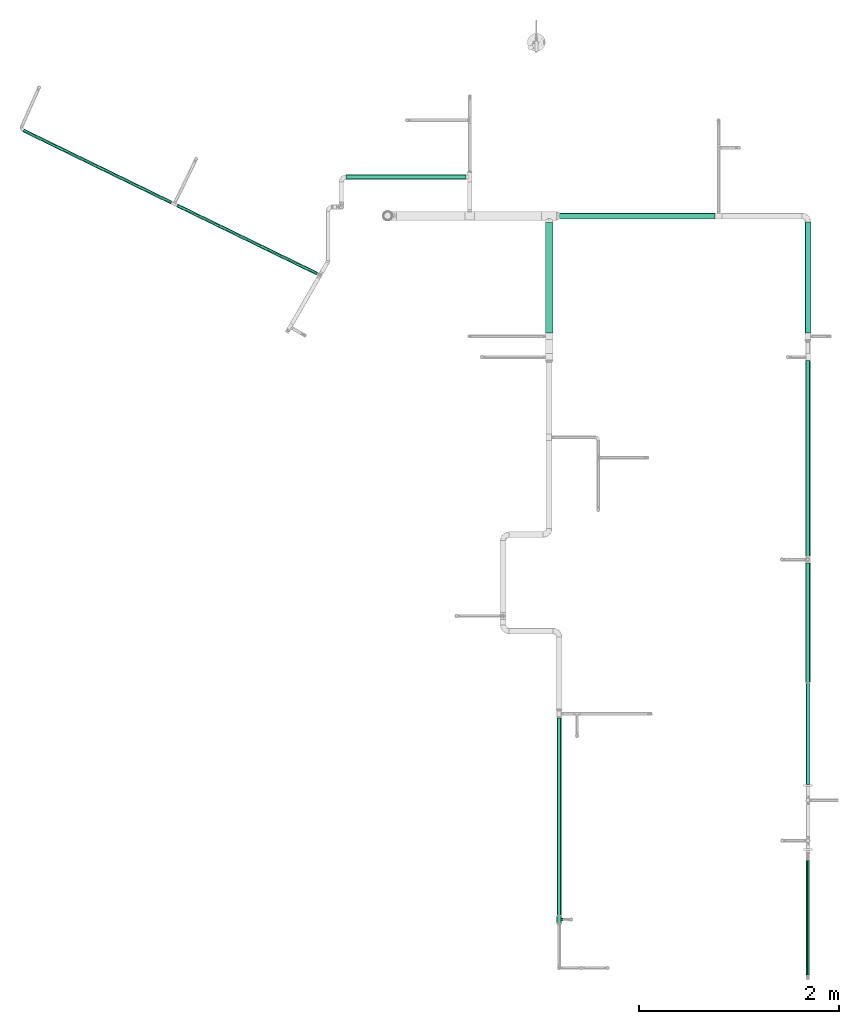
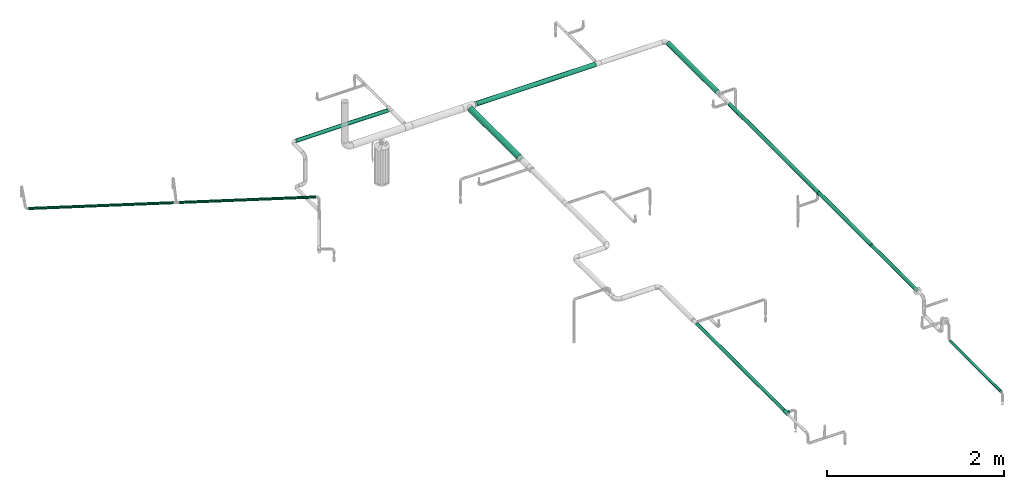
# One storey, part 1 of 43: 11 flow segments, 1 flow fitting.
"""IFC2X3 building model written with IfcOpenShell, lengths in millimetres."""

from ifc_helpers import new_model, entity, si_unit, converted_unit, derived_unit, direction, frame, origin_with_axes, origin_2d_with_axis, place, context, subcontext, project, spatial, hollow_circle, extrude, open_shell, surface_model, source, transform, mapped, type_object, element, save


model = new_model("IFC2X3")

# Units and contexts
model_context = context("Model", 3, precision=0.01, world=frame((0.0, 4.29681676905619e-09, 0.0)), true_north=direction((4.01073788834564e-13, 1.0)))
plan_context = context("Plan", 3, precision=0.01, world=frame((0.0, 4.29681676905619e-09, 0.0)), true_north=direction((4.01073788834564e-13, 1.0)))
body_context = subcontext(model_context, "Body", "Model", "MODEL_VIEW")
ifc_project = project(units=[converted_unit("PLANEANGLEUNIT", "DEGREE", entity("IfcPositiveLengthMeasure", 0.0174532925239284), si_unit("PLANEANGLEUNIT", "RADIAN"), dimensions=[0, 0, 0, 0, 0, 0, 0]), si_unit("AREAUNIT", "SQUARE_METRE"), si_unit("LENGTHUNIT", "METRE", prefix="MILLI"), si_unit("MASSUNIT", "GRAM", prefix="KILO"), si_unit("POWERUNIT", "WATT"), si_unit("PRESSUREUNIT", "PASCAL"), si_unit("FORCEUNIT", "NEWTON", prefix="KILO"), si_unit("ELECTRICVOLTAGEUNIT", "VOLT"), si_unit("ELECTRICCURRENTUNIT", "AMPERE"), si_unit("THERMODYNAMICTEMPERATUREUNIT", "DEGREE_CELSIUS"), si_unit("TIMEUNIT", "SECOND"), si_unit("VOLUMEUNIT", "CUBIC_METRE"), derived_unit("LINEARVELOCITYUNIT", [(si_unit("LENGTHUNIT", "METRE"), 1), (si_unit("TIMEUNIT", "SECOND"), -1)]), derived_unit("VOLUMETRICFLOWRATEUNIT", [(si_unit("VOLUMEUNIT", "CUBIC_METRE"), 1), (si_unit("TIMEUNIT", "SECOND"), -1)]), derived_unit("THERMALTRANSMITTANCEUNIT", [(si_unit("POWERUNIT", "WATT"), 1), (si_unit("THERMODYNAMICTEMPERATUREUNIT", "KELVIN"), -1), (si_unit("AREAUNIT", "SQUARE_METRE"), -1)]), derived_unit("SOUNDPRESSUREUNIT", [(si_unit("PRESSUREUNIT", "PASCAL"), 1)])], contexts=[model_context, plan_context])

# Site, building, storey
site_placement = place(None, frame((0.0, -4.29681676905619e-09, 0.0), z_axis=(0.0, 0.0, 1.0), x_axis=(1.0, 0.0, 0.0)))
site = spatial("IfcSite", under=ifc_project, at=site_placement, CompositionType="ELEMENT")
building_placement = place(site_placement, frame((0.0, 4.29681676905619e-09, 0.0), z_axis=(0.0, 0.0, 1.0), x_axis=(1.0, 0.0, 0.0)))
building = spatial("IfcBuilding", under=site, at=building_placement, Name="mc-building", CompositionType="ELEMENT")
storey_placement = place(building_placement, frame((0.0, 0.0, 210900.0), z_axis=(0.0, 0.0, 1.0), x_axis=(1.0, 0.0, 0.0)))
storey = spatial("IfcBuildingStorey", under=building, at=storey_placement, Name="Nivå F", CompositionType="ELEMENT", Elevation=210900.0)

# Flow fitting
pipe_fitting_type = type_object("IfcPipeFittingType", Name="magi_pipe_fe_tee_centric_90_NOR", PredefinedType="JUNCTION")
shared_shape_1 = source(origin_with_axes(), body_context, "Body", "SurfaceModel", [
    surface_model("IfcShellBasedSurfaceModel", [(-33.8, 0.0, -24.2), (-33.8, -6.26342, -23.37541), (-33.8, 6.26342, -23.37541), (-33.8, 12.1, -20.95781), (-33.8, 17.11198, -17.11198), (-33.8, 20.95781, -12.1), (-33.8, -23.37541, -6.26342), (-33.8, 23.37541, -6.26342), (-33.8, -17.11198, -17.11198), (-33.8, -20.95781, -12.1), (-33.8, -12.1, -20.95781), (-33.8, -24.2, 0.0), (-33.8, -23.37541, 6.26342), (-33.8, 20.95781, 12.1), (-33.8, 23.37541, 6.26342), (-33.8, 24.2, 0.0), (-33.8, 12.1, 20.95781), (-33.8, 17.11198, 17.11198), (-33.8, -17.11198, 17.11198), (-33.8, 6.26342, 23.37541), (-33.8, -20.95781, 12.1), (-33.8, -12.1, 20.95781), (-33.8, -6.26342, 23.37541), (-33.8, 0.0, 24.2), (33.8, 6.26342, -23.37541), (33.8, -6.26342, -23.37541), (33.8, 0.0, -24.2), (33.8, 17.11198, -17.11198), (33.8, 12.1, -20.95781), (33.8, -23.37541, -6.26342), (33.8, 20.95781, -12.1), (33.8, 23.37541, -6.26342), (33.8, -17.11198, -17.11198), (33.8, -12.1, -20.95781), (33.8, -20.95781, -12.1), (33.8, -24.2, 0.0), (33.8, 24.2, 0.0), (33.8, 23.37541, 6.26342), (33.8, 20.95781, 12.1), (33.8, -23.37541, 6.26342), (33.8, -17.11198, 17.11198), (33.8, 12.1, 20.95781), (33.8, 17.11198, 17.11198), (33.8, 6.26342, 23.37541), (33.8, -20.95781, 12.1), (33.8, -12.1, 20.95781), (33.8, 0.0, 24.2), (33.8, -6.26342, 23.37541), (15.81824, -23.45734, 5.94922), (16.9, -24.2, 0.0), (12.87025, -21.57947, 10.95293), (33.8, -19.0349, 14.60599), (8.52813, -19.30697, 14.59044), (3.03527, -17.5853, 16.6252), (-3.04044, -17.58619, 16.62425), (-8.52961, -19.30762, 14.58958), (-33.8, -19.0349, 14.60599), (-16.9, -24.2, 0.0), (-15.81885, -23.45775, 5.9476), (-12.87368, -21.58151, 10.9489), (3.03527, -17.5853, -16.6252), (33.8, -19.0349, -14.60599), (8.52813, -19.30697, -14.59044), (-8.52961, -19.30762, -14.58958), (-33.8, -19.0349, -14.60599), (12.87025, -21.57947, -10.95293), (-3.04044, -17.58619, -16.62425), (15.81824, -23.45734, -5.94922), (-12.87368, -21.58151, -10.9489), (-15.81885, -23.45775, -5.9476), (4.37404, -36.3, -16.32415), (-16.9, -36.3, 0.0), (0.0, -36.3, -16.9), (14.63583, -36.3, -8.45), (8.45, -36.3, -14.63583), (16.32415, -36.3, -4.37404), (11.9501, -36.3, -11.9501), (-11.9501, -36.3, -11.9501), (-8.45, -36.3, -14.63583), (-4.37404, -36.3, -16.32415), (-14.63583, -36.3, -8.45), (-16.32415, -36.3, -4.37404), (16.9, -36.3, 0.0), (8.45, -36.3, 14.63583), (16.32415, -36.3, 4.37404), (14.63583, -36.3, 8.45), (-8.45, -36.3, 14.63583), (11.9501, -36.3, 11.9501), (4.37404, -36.3, 16.32415), (-16.32415, -36.3, 4.37404), (-11.9501, -36.3, 11.9501), (-14.63583, -36.3, 8.45), (0.0, -36.3, 16.9), (-4.37404, -36.3, 16.32415), (-16.35943, -23.82888, 2.9738), (16.35912, -23.82867, 2.97461), (-0.00259, -17.58575, 16.62472), (16.35912, -23.82867, -2.97461), (-0.00259, -17.58575, -16.62472), (-16.35943, -23.82888, -2.9738)], [open_shell([[[0, 1, 2]], [[3, 2, 4]], [[5, 2, 6]], [[4, 2, 5]], [[7, 5, 6]], [[8, 9, 10]], [[1, 10, 9]], [[1, 9, 2]], [[9, 6, 2]], [[6, 11, 7]], [[11, 12, 7]], [[13, 14, 15]], [[13, 15, 12]], [[16, 17, 18]], [[12, 17, 13]], [[19, 16, 18]], [[20, 18, 12]], [[18, 17, 12]], [[21, 22, 18]], [[23, 18, 22]], [[18, 23, 19]], [[7, 12, 15]], [[24, 25, 26]], [[27, 24, 28]], [[29, 24, 30]], [[30, 24, 27]], [[29, 30, 31]], [[25, 32, 33]], [[32, 25, 34]], [[24, 34, 25]], [[24, 29, 34]], [[31, 35, 29]], [[31, 36, 35]], [[36, 37, 38]], [[39, 36, 38]], [[40, 38, 41]], [[41, 38, 42]], [[40, 41, 43]], [[39, 40, 44]], [[39, 38, 40]], [[45, 46, 47]], [[46, 45, 40]], [[43, 46, 40]], [[36, 39, 35]], [[35, 39, 48]], [[48, 49, 35]], [[39, 50, 48]], [[51, 40, 52]], [[52, 50, 44]], [[53, 52, 40]], [[54, 53, 21]], [[44, 50, 39]], [[55, 18, 56]], [[57, 58, 11]], [[12, 11, 58]], [[58, 59, 12]], [[55, 54, 18]], [[55, 20, 59]], [[20, 55, 56]], [[59, 20, 12]], [[18, 54, 21]], [[52, 44, 51]], [[53, 40, 45]], [[23, 47, 46]], [[22, 45, 47]], [[19, 46, 43]], [[38, 37, 14]], [[17, 41, 42]], [[13, 42, 38]], [[43, 41, 16]], [[15, 37, 36]], [[21, 45, 22]], [[22, 47, 23]], [[19, 23, 46]], [[43, 16, 19]], [[16, 41, 17]], [[13, 17, 42]], [[14, 13, 38]], [[37, 15, 14]], [[45, 21, 53]], [[5, 31, 30]], [[7, 36, 31]], [[4, 30, 27]], [[26, 25, 1]], [[2, 28, 24]], [[0, 24, 26]], [[27, 28, 3]], [[10, 25, 33]], [[15, 36, 7]], [[7, 31, 5]], [[4, 5, 30]], [[27, 3, 4]], [[3, 28, 2]], [[0, 2, 24]], [[1, 0, 26]], [[25, 10, 1]], [[33, 60, 10]], [[61, 34, 62]], [[63, 9, 64]], [[62, 60, 32]], [[34, 65, 62]], [[66, 10, 60]], [[29, 35, 67]], [[67, 65, 29]], [[49, 67, 35]], [[29, 65, 34]], [[66, 63, 8]], [[62, 32, 61]], [[64, 8, 63]], [[63, 68, 9]], [[8, 10, 66]], [[68, 69, 6]], [[69, 11, 6]], [[11, 69, 57]], [[68, 6, 9]], [[60, 33, 32]], [[70, 71, 72]], [[73, 70, 74]], [[73, 75, 70]], [[73, 74, 76]], [[71, 70, 75]], [[72, 77, 78]], [[78, 79, 72]], [[80, 71, 81]], [[77, 72, 80]], [[71, 80, 72]], [[75, 82, 71]], [[83, 82, 84]], [[83, 84, 85]], [[86, 71, 83]], [[83, 85, 87]], [[86, 83, 88]], [[89, 90, 91]], [[90, 89, 86]], [[86, 92, 93]], [[89, 71, 86]], [[88, 92, 86]], [[83, 71, 82]], [[89, 94, 71]], [[59, 91, 90]], [[89, 91, 58]], [[90, 86, 55]], [[89, 58, 94]], [[94, 57, 71]], [[58, 91, 59]], [[95, 48, 84]], [[55, 93, 54]], [[55, 59, 90]], [[92, 53, 96]], [[55, 86, 93]], [[53, 92, 88]], [[83, 52, 88]], [[87, 85, 50]], [[87, 52, 83]], [[48, 85, 84]], [[87, 50, 52]], [[52, 53, 88]], [[82, 95, 84]], [[48, 50, 85]], [[95, 82, 49]], [[92, 54, 93]], [[96, 54, 92]], [[75, 97, 82]], [[65, 73, 76]], [[75, 73, 67]], [[76, 74, 62]], [[97, 49, 82]], [[67, 73, 65]], [[62, 70, 60]], [[62, 65, 76]], [[72, 66, 98]], [[62, 74, 70]], [[99, 71, 57]], [[99, 69, 81]], [[75, 67, 97]], [[79, 66, 72]], [[69, 80, 81]], [[77, 80, 68]], [[72, 60, 70]], [[79, 63, 66]], [[63, 79, 78]], [[78, 77, 63]], [[63, 77, 68]], [[68, 80, 69]], [[71, 99, 81]], [[98, 60, 72]]])]),
])
flow_fitting_placement = place(storey_placement, frame((607879.57252, 690202.7492, 2660.0), z_axis=(0.0, 0.0, -1.0), x_axis=(0.0, -1.0, 0.0)))
element("IfcFlowFitting", 1, at=flow_fitting_placement, inside=storey, type_object=pipe_fitting_type, Name="magi_pipe_fe_tee_centric_90_NOR", context=body_context, shape_type="MappedRepresentation", body=[
    mapped(shared_shape_1, transform((0.0, 0.0, 0.0), scale=1.0)),
])

# Flow segments
pipe_segment_type = type_object("IfcPipeSegmentType", Name="Stålrør normaltykke", PredefinedType="RIGIDSEGMENT")
shared_shape_2 = source(origin_with_axes(), body_context, "Body", "SweptSolid", [
    extrude(hollow_circle(Radius=24.1, WallThickness=2.0, at=origin_2d_with_axis()), frame((0.0, 0.0, 0.0), z_axis=(1.0, 0.0, 0.0), x_axis=(0.0, 1.0, 0.0)), (0.0, 0.0, 1.0), 1199.4),
])
flow_segment_1_placement = place(storey_placement, frame((605750.79161, 697625.26176, 2660.0), z_axis=(0.0, 0.0, 1.0), x_axis=(1.0, 0.0, 0.0)))
element("IfcFlowSegment", 2, at=flow_segment_1_placement, inside=storey, type_object=pipe_segment_type, Name="Stålrør normaltykke", context=body_context, shape_type="MappedRepresentation", body=[
    mapped(shared_shape_2, transform((0.0, 0.0, 0.0), scale=1.0)),
])
shared_shape_3 = source(origin_with_axes(), body_context, "Body", "SweptSolid", [
    extrude(hollow_circle(Radius=30.1, WallThickness=2.0, at=origin_2d_with_axis()), frame((0.0, 0.0, 0.0), z_axis=(1.0, 0.0, 0.0), x_axis=(0.0, 1.0, 0.0)), (0.0, 0.0, 1.0), 1555.6),
])
flow_segment_2_placement = place(storey_placement, frame((607884.37252, 697236.30413, 2660.0), z_axis=(0.0, 0.0, 1.0), x_axis=(1.0, 0.0, 0.0)))
element("IfcFlowSegment", 3, at=flow_segment_2_placement, inside=storey, type_object=pipe_segment_type, Name="Stålrør normaltykke", context=body_context, shape_type="MappedRepresentation", body=[
    mapped(shared_shape_3, transform((0.0, 0.0, 0.0), scale=1.0)),
])
shared_shape_4 = source(origin_with_axes(), body_context, "Body", "SweptSolid", [
    extrude(hollow_circle(Radius=24.1, WallThickness=2.0, at=origin_2d_with_axis()), frame((0.0, 0.0, 0.0), z_axis=(1.0, 0.0, 0.0), x_axis=(0.0, 1.0, 0.0)), (0.0, 0.0, 1.0), 2024.1),
])
flow_segment_3_placement = place(storey_placement, frame((610366.6122, 695791.42914, 2660.0), z_axis=(0.0, 0.0, 1.0), x_axis=(0.0, -1.0, 0.0)))
element("IfcFlowSegment", 4, at=flow_segment_3_placement, inside=storey, type_object=pipe_segment_type, Name="Stålrør normaltykke", context=body_context, shape_type="MappedRepresentation", body=[
    mapped(shared_shape_4, transform((0.0, 0.0, 0.0), scale=1.0)),
])
shared_shape_5 = source(origin_with_axes(), body_context, "Body", "SweptSolid", [
    extrude(hollow_circle(Radius=38.0, WallThickness=2.0, at=origin_2d_with_axis()), frame((0.0, 0.0, 0.0), z_axis=(1.0, 0.0, 0.0), x_axis=(0.0, 1.0, 0.0)), (0.0, 0.0, 1.0), 1102.1),
])
flow_segment_4_placement = place(storey_placement, frame((607779.57252, 697169.55413, 2660.0), z_axis=(0.0, 0.0, 1.0), x_axis=(0.0, -1.0, 0.0)))
element("IfcFlowSegment", 5, at=flow_segment_4_placement, inside=storey, type_object=pipe_segment_type, Name="Stålrør normaltykke", context=body_context, shape_type="MappedRepresentation", body=[
    mapped(shared_shape_5, transform((0.0, 0.0, 0.0), scale=1.0)),
])
shared_shape_6 = source(origin_with_axes(), body_context, "Body", "SweptSolid", [
    extrude(hollow_circle(Radius=24.1, WallThickness=2.0, at=origin_2d_with_axis()), frame((0.0, 0.0, 0.0), z_axis=(1.0, 0.0, 0.0), x_axis=(0.0, 1.0, 0.0)), (0.0, 0.0, 1.0), 1195.0),
])
flow_segment_5_placement = place(storey_placement, frame((610366.6122, 692572.37925, 2660.0), z_axis=(0.0, 0.0, 1.0), x_axis=(0.0, 1.0, 0.0)))
element("IfcFlowSegment", 6, at=flow_segment_5_placement, inside=storey, type_object=pipe_segment_type, Name="Stålrør normaltykke", context=body_context, shape_type="MappedRepresentation", body=[
    mapped(shared_shape_6, transform((0.0, 0.0, 0.0), scale=1.0)),
])
shared_shape_7 = source(origin_with_axes(), body_context, "Body", "SweptSolid", [
    extrude(hollow_circle(Radius=21.2, WallThickness=2.0, at=origin_2d_with_axis()), frame((0.0, 0.0, 0.0), z_axis=(1.0, 0.0, 0.0), x_axis=(0.0, 1.0, 0.0)), (0.0, 0.0, 1.0), 1014.3),
])
flow_segment_6_placement = place(storey_placement, frame((610366.6122, 692566.37925, 2660.0), z_axis=(0.0, 0.0, 1.0), x_axis=(0.0, -1.0, 0.0)))
element("IfcFlowSegment", 7, at=flow_segment_6_placement, inside=storey, type_object=pipe_segment_type, Name="Stålrør normaltykke", context=body_context, shape_type="MappedRepresentation", body=[
    mapped(shared_shape_7, transform((0.0, 0.0, 0.0), scale=1.0)),
])
shared_shape_8 = source(origin_with_axes(), body_context, "Body", "SweptSolid", [
    extrude(hollow_circle(Radius=21.2, WallThickness=2.0, at=origin_2d_with_axis()), frame((0.0, 0.0, 0.0), z_axis=(1.0, 0.0, 0.0), x_axis=(0.0, 1.0, 0.0)), (0.0, 0.0, 1.0), 1977.0),
])
flow_segment_7_placement = place(storey_placement, frame((607879.57252, 690242.5492, 2660.0), z_axis=(0.0, 0.0, 1.0), x_axis=(0.0, 1.0, 0.0)))
element("IfcFlowSegment", 8, at=flow_segment_7_placement, inside=storey, type_object=pipe_segment_type, Name="Stålrør normaltykke", context=body_context, shape_type="MappedRepresentation", body=[
    mapped(shared_shape_8, transform((0.0, 0.0, 0.0), scale=1.0)),
])
shared_shape_9 = source(origin_with_axes(), body_context, "Body", "SweptSolid", [
    extrude(hollow_circle(Radius=30.1, WallThickness=2.0, at=origin_2d_with_axis()), frame((0.0, 0.0, 0.0), z_axis=(1.0, 0.0, 0.0), x_axis=(0.0, 1.0, 0.0)), (0.0, 0.0, 1.0), 1108.4),
])
flow_segment_8_placement = place(storey_placement, frame((610366.6122, 696067.47925, 2660.0), z_axis=(0.0, 0.0, 1.0), x_axis=(0.0, 1.0, 0.0)))
element("IfcFlowSegment", 9, at=flow_segment_8_placement, inside=storey, type_object=pipe_segment_type, Name="Stålrør normaltykke", context=body_context, shape_type="MappedRepresentation", body=[
    mapped(shared_shape_9, transform((0.0, 0.0, 0.0), scale=1.0)),
])
shared_shape_10 = source(origin_with_axes(), body_context, "Body", "SweptSolid", [
    extrude(hollow_circle(Radius=16.9, WallThickness=2.0, at=origin_2d_with_axis()), frame((0.0, 0.0, 0.0), z_axis=(1.0, 0.0, 0.0), x_axis=(0.0, 1.0, 0.0)), (0.0, 0.0, 1.0), 1554.5),
])
flow_segment_9_placement = place(storey_placement, frame((605459.63639, 696659.68428, 2571.79999999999), z_axis=(0.0, 0.0, 1.0), x_axis=(-0.898794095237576, 0.438371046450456, 0.0)))
element("IfcFlowSegment", 10, at=flow_segment_9_placement, inside=storey, type_object=pipe_segment_type, Name="Stålrør normaltykke", context=body_context, shape_type="MappedRepresentation", body=[
    mapped(shared_shape_10, transform((0.0, 0.0, 0.0), scale=1.0)),
])
shared_shape_11 = source(origin_with_axes(), body_context, "Body", "SweptSolid", [
    extrude(hollow_circle(Radius=16.9, WallThickness=2.0, at=origin_2d_with_axis()), frame((0.0, 0.0, 0.0), z_axis=(1.0, 0.0, 0.0), x_axis=(0.0, 1.0, 0.0)), (0.0, 0.0, 1.0), 1144.6),
])
flow_segment_10_placement = place(storey_placement, frame((610366.6122, 690793.60046, 2415.0), z_axis=(0.0, 0.0, 1.0), x_axis=(0.0, -1.0, 0.0)))
element("IfcFlowSegment", 11, at=flow_segment_10_placement, inside=storey, type_object=pipe_segment_type, Name="Stålrør normaltykke", context=body_context, shape_type="MappedRepresentation", body=[
    mapped(shared_shape_11, transform((0.0, 0.0, 0.0), scale=1.0)),
])
shared_shape_12 = source(origin_with_axes(), body_context, "Body", "SweptSolid", [
    extrude(hollow_circle(Radius=16.9, WallThickness=2.0, at=origin_2d_with_axis()), frame((0.0, 0.0, 0.0), z_axis=(1.0, 0.0, 0.0), x_axis=(0.0, 1.0, 0.0)), (0.0, 0.0, 1.0), 1642.0),
])
flow_segment_11_placement = place(storey_placement, frame((604001.69193, 697370.7713, 2571.79999999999), z_axis=(0.0, 0.0, 1.0), x_axis=(-0.898794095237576, 0.438371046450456, 0.0)))
element("IfcFlowSegment", 12, at=flow_segment_11_placement, inside=storey, type_object=pipe_segment_type, Name="Stålrør normaltykke", context=body_context, shape_type="MappedRepresentation", body=[
    mapped(shared_shape_12, transform((0.0, 0.0, 0.0), scale=1.0)),
])

save(model, "model.ifc")
